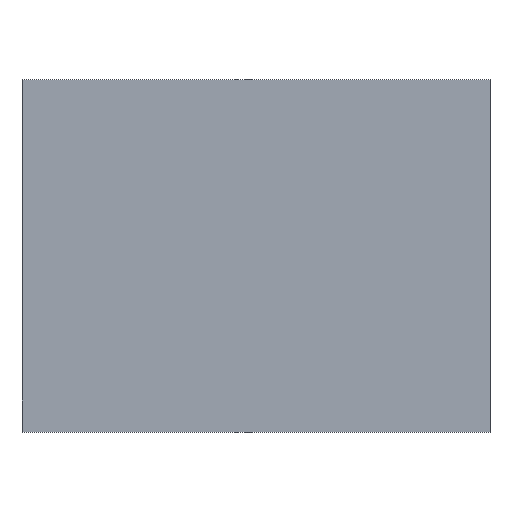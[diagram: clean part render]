
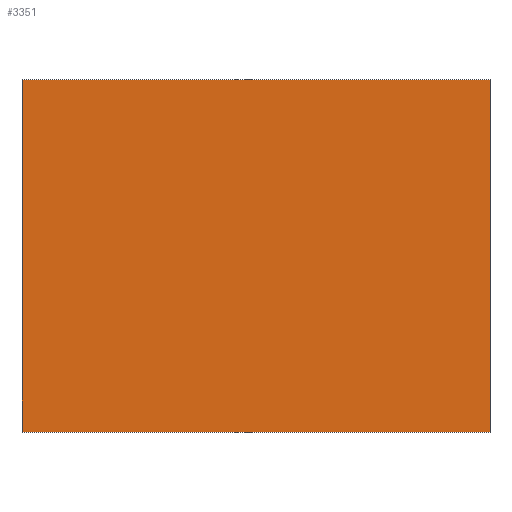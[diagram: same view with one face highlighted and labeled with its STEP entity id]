
A CAD part, top view. The second image highlights one B-rep face of the part: STEP entity #3351.
In plain terms, the highlighted planar face has unit normal (0, 0, 1).
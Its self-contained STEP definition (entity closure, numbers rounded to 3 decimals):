
#3215=CARTESIAN_POINT('Vertex',(101.,76.,22.)) ;
#3229=CARTESIAN_POINT('Vertex',(-101.,76.,22.)) ;
#3232=CARTESIAN_POINT('Line Origine',(0.,76.,22.)) ;
#3260=CARTESIAN_POINT('Vertex',(-101.,-76.,22.)) ;
#3263=CARTESIAN_POINT('Line Origine',(-101.,0.,22.)) ;
#3291=CARTESIAN_POINT('Vertex',(101.,-76.,22.)) ;
#3294=CARTESIAN_POINT('Line Origine',(0.,-76.,22.)) ;
#3316=CARTESIAN_POINT('Line Origine',(101.,0.,22.)) ;
#3340=CARTESIAN_POINT('Axis2P3D Location',(0.,0.,22.)) ;
#3233=DIRECTION('Vector Direction',(1.,0.,0.)) ;
#3264=DIRECTION('Vector Direction',(0.,1.,0.)) ;
#3295=DIRECTION('Vector Direction',(-1.,0.,0.)) ;
#3317=DIRECTION('Vector Direction',(0.,-1.,0.)) ;
#3341=DIRECTION('Axis2P3D Direction',(0.,0.,1.)) ;
#3342=DIRECTION('Axis2P3D XDirection',(1.,0.,0.)) ;
#3343=AXIS2_PLACEMENT_3D('Plane Axis2P3D',#3340,#3341,#3342) ;
#3346=ORIENTED_EDGE('',*,*,#3236,.T.) ;
#3347=ORIENTED_EDGE('',*,*,#3267,.T.) ;
#3348=ORIENTED_EDGE('',*,*,#3298,.T.) ;
#3349=ORIENTED_EDGE('',*,*,#3320,.T.) ;
#3234=VECTOR('Line Direction',#3233,1.) ;
#3265=VECTOR('Line Direction',#3264,1.) ;
#3296=VECTOR('Line Direction',#3295,1.) ;
#3318=VECTOR('Line Direction',#3317,1.) ;
#3351=ADVANCED_FACE('cavity',(#3350),#3344,.T.) ;
#3236=EDGE_CURVE('',#3216,#3230,#3235,.F.) ;
#3267=EDGE_CURVE('',#3230,#3261,#3266,.F.) ;
#3298=EDGE_CURVE('',#3261,#3292,#3297,.F.) ;
#3320=EDGE_CURVE('',#3292,#3216,#3319,.F.) ;
#3345=EDGE_LOOP('',(#3346,#3347,#3348,#3349)) ;
#3350=FACE_OUTER_BOUND('',#3345,.T.) ;
#3235=LINE('Line',#3232,#3234) ;
#3266=LINE('Line',#3263,#3265) ;
#3297=LINE('Line',#3294,#3296) ;
#3319=LINE('Line',#3316,#3318) ;
#3344=PLANE('Plane',#3343) ;
#3216=VERTEX_POINT('',#3215) ;
#3230=VERTEX_POINT('',#3229) ;
#3261=VERTEX_POINT('',#3260) ;
#3292=VERTEX_POINT('',#3291) ;
